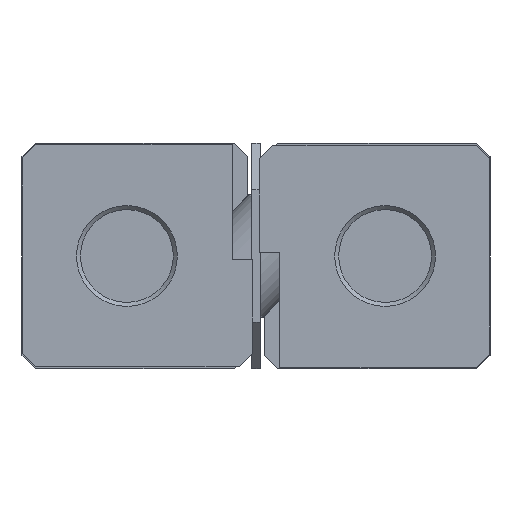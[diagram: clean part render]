
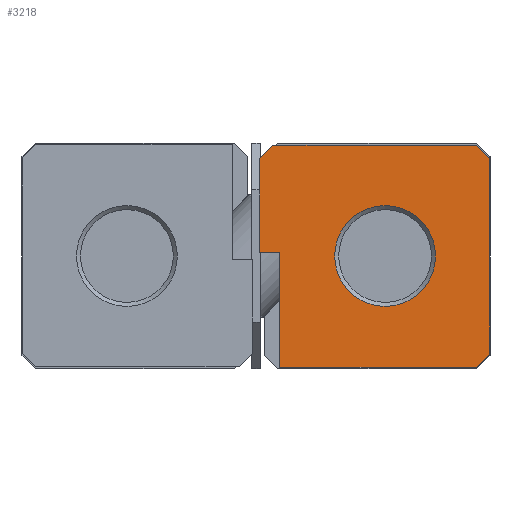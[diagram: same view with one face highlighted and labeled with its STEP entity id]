
A CAD part, left-side view. The second image highlights one B-rep face of the part: STEP entity #3218.
In plain terms, the highlighted planar face has unit normal (-1, 0, 0).
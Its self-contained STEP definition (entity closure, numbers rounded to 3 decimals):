
#109=CIRCLE('',#3445,6.25);
#294=ORIENTED_EDGE('',*,*,#1125,.T.);
#295=ORIENTED_EDGE('',*,*,#1107,.F.);
#296=ORIENTED_EDGE('',*,*,#1124,.F.);
#297=ORIENTED_EDGE('',*,*,#1122,.F.);
#298=ORIENTED_EDGE('',*,*,#1120,.F.);
#299=ORIENTED_EDGE('',*,*,#1118,.F.);
#300=ORIENTED_EDGE('',*,*,#1116,.F.);
#301=ORIENTED_EDGE('',*,*,#1114,.F.);
#302=ORIENTED_EDGE('',*,*,#1112,.F.);
#303=ORIENTED_EDGE('',*,*,#1110,.F.);
#1107=EDGE_CURVE('',#1535,#1536,#1857,.T.);
#1110=EDGE_CURVE('',#1536,#1537,#1860,.T.);
#1112=EDGE_CURVE('',#1537,#1538,#1862,.T.);
#1114=EDGE_CURVE('',#1538,#1539,#1864,.T.);
#1116=EDGE_CURVE('',#1539,#1540,#1866,.T.);
#1118=EDGE_CURVE('',#1540,#1541,#1868,.T.);
#1120=EDGE_CURVE('',#1541,#1542,#1870,.T.);
#1122=EDGE_CURVE('',#1542,#1543,#1872,.T.);
#1124=EDGE_CURVE('',#1543,#1535,#1874,.T.);
#1125=EDGE_CURVE('',#1544,#1544,#109,.T.);
#1535=VERTEX_POINT('',#4720);
#1536=VERTEX_POINT('',#4721);
#1537=VERTEX_POINT('',#4726);
#1538=VERTEX_POINT('',#4730);
#1539=VERTEX_POINT('',#4734);
#1540=VERTEX_POINT('',#4738);
#1541=VERTEX_POINT('',#4742);
#1542=VERTEX_POINT('',#4746);
#1543=VERTEX_POINT('',#4750);
#1544=VERTEX_POINT('',#4756);
#1857=LINE('',#4719,#2211);
#1860=LINE('',#4725,#2214);
#1862=LINE('',#4729,#2216);
#1864=LINE('',#4733,#2218);
#1866=LINE('',#4737,#2220);
#1868=LINE('',#4741,#2222);
#1870=LINE('',#4745,#2224);
#1872=LINE('',#4749,#2226);
#1874=LINE('',#4753,#2228);
#2211=VECTOR('',#3787,1000.);
#2214=VECTOR('',#3792,1000.);
#2216=VECTOR('',#3796,1000.);
#2218=VECTOR('',#3800,1000.);
#2220=VECTOR('',#3804,1000.);
#2222=VECTOR('',#3808,1000.);
#2224=VECTOR('',#3812,1000.);
#2226=VECTOR('',#3816,1000.);
#2228=VECTOR('',#3820,1000.);
#2538=EDGE_LOOP('',(#294));
#2539=EDGE_LOOP('',(#295,#296,#297,#298,#299,#300,#301,#302,#303));
#2808=FACE_BOUND('',#2538,.T.);
#2809=FACE_BOUND('',#2539,.T.);
#3074=PLANE('',#3444);
#3218=ADVANCED_FACE('',(#2808,#2809),#3074,.F.);
#3444=AXIS2_PLACEMENT_3D('',#4754,#3821,#3822);
#3445=AXIS2_PLACEMENT_3D('',#4755,#3823,#3824);
#3787=DIRECTION('',(0.,-1.,0.));
#3792=DIRECTION('',(0.,-0.707,-0.707));
#3796=DIRECTION('',(0.,0.,-1.));
#3800=DIRECTION('',(0.,0.707,-0.707));
#3804=DIRECTION('',(0.,1.,0.));
#3808=DIRECTION('',(0.,0.,1.));
#3812=DIRECTION('',(0.,1.,0.));
#3816=DIRECTION('',(0.,0.,1.));
#3820=DIRECTION('',(0.,-0.707,0.707));
#3821=DIRECTION('',(1.,0.,0.));
#3822=DIRECTION('',(0.,0.,-1.));
#3823=DIRECTION('',(1.,0.,0.));
#3824=DIRECTION('',(0.,0.,-1.));
#4719=CARTESIAN_POINT('',(0.,-2.1,13.7));
#4720=CARTESIAN_POINT('',(0.,-2.1,13.7));
#4721=CARTESIAN_POINT('',(0.,-27.3,13.7));
#4725=CARTESIAN_POINT('',(0.,-27.3,13.7));
#4726=CARTESIAN_POINT('',(0.,-28.95,12.05));
#4729=CARTESIAN_POINT('',(0.,-28.95,12.05));
#4730=CARTESIAN_POINT('',(0.,-28.95,-12.15));
#4733=CARTESIAN_POINT('',(0.,-28.95,-12.15));
#4734=CARTESIAN_POINT('',(0.,-27.3,-13.8));
#4737=CARTESIAN_POINT('',(0.,-27.3,-13.8));
#4738=CARTESIAN_POINT('',(0.,-2.95,-13.8));
#4741=CARTESIAN_POINT('',(0.,-2.95,-13.8));
#4742=CARTESIAN_POINT('',(0.,-2.95,0.45));
#4745=CARTESIAN_POINT('',(0.,-2.95,0.45));
#4746=CARTESIAN_POINT('',(0.,-0.45,0.45));
#4749=CARTESIAN_POINT('',(0.,-0.45,0.45));
#4750=CARTESIAN_POINT('',(0.,-0.45,12.05));
#4753=CARTESIAN_POINT('',(0.,-0.45,12.05));
#4754=CARTESIAN_POINT('',(0.,0.,0.));
#4755=CARTESIAN_POINT('',(0.,-16.,0.));
#4756=CARTESIAN_POINT('',(0.,-16.,-6.25));
